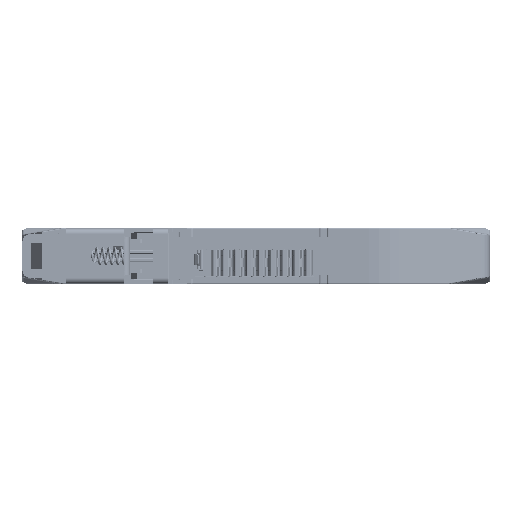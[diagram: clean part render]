
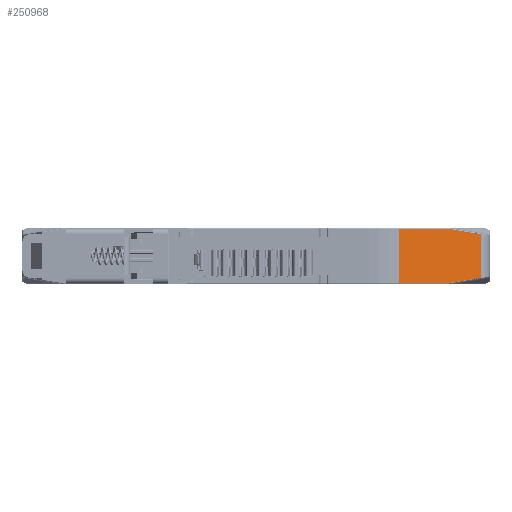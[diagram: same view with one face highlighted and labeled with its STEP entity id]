
A CAD part, front view. The second image highlights one B-rep face of the part: STEP entity #250968.
In plain terms, the highlighted planar face has unit normal (0.326, -0.946, 0).
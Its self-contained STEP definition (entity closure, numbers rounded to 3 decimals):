
#25450=DIRECTION('',(0.,0.,1.));
#25451=VECTOR('',#25450,9.291);
#25452=CARTESIAN_POINT('',(93.227,-2.698,
-1.445));
#25453=LINE('',#25452,#25451);
#25454=CARTESIAN_POINT('',(93.227,-2.698,
7.845));
#25582=CARTESIAN_POINT('',(93.227,-2.698,
-1.445));
#25584=DIRECTION('',(0.946,0.326,0.));
#25585=VECTOR('',#25584,10.873);
#25586=CARTESIAN_POINT('',(75.911,-8.66,9.));
#25587=LINE('',#25586,#25585);
#25588=CARTESIAN_POINT('',(86.191,-5.121,9.));
#25589=CARTESIAN_POINT('',(86.203,-5.116,
9.));
#25590=CARTESIAN_POINT('',(86.227,-5.108,
9.));
#25591=CARTESIAN_POINT('',(86.263,-5.096,
8.998));
#25592=CARTESIAN_POINT('',(86.298,-5.084,
8.996));
#25593=CARTESIAN_POINT('',(86.334,-5.071,
8.992));
#25594=CARTESIAN_POINT('',(86.369,-5.059,
8.988));
#25595=CARTESIAN_POINT('',(86.393,-5.051,
8.984));
#25596=CARTESIAN_POINT('',(86.405,-5.047,
8.982));
#25598=DIRECTION('',(0.934,0.322,-0.156));
#25599=VECTOR('',#25598,5.994);
#25600=CARTESIAN_POINT('',(86.405,-5.047,
8.982));
#25601=LINE('',#25600,#25599);
#25602=DIRECTION('',(0.,0.,1.));
#25603=VECTOR('',#25602,0.011);
#25604=CARTESIAN_POINT('',(92.003,-3.119,
8.038));
#25605=LINE('',#25604,#25603);
#25606=DIRECTION('',(-0.934,-0.322,0.156));
#25607=VECTOR('',#25606,0.506);
#25608=CARTESIAN_POINT('',(92.475,-2.957,
7.96));
#25609=LINE('',#25608,#25607);
#25610=DIRECTION('',(0.,0.,1.));
#25611=VECTOR('',#25610,0.011);
#25612=CARTESIAN_POINT('',(92.475,-2.957,
7.96));
#25613=LINE('',#25612,#25611);
#25614=DIRECTION('',(0.934,0.322,-0.156));
#25615=VECTOR('',#25614,0.804);
#25616=CARTESIAN_POINT('',(92.475,-2.957,
7.971));
#25617=LINE('',#25616,#25615);
#25618=DIRECTION('',(-0.934,-0.322,-0.156));
#25619=VECTOR('',#25618,0.804);
#25620=CARTESIAN_POINT('',(93.227,-2.698,
-1.445));
#25621=LINE('',#25620,#25619);
#25622=DIRECTION('',(0.,0.,-1.));
#25623=VECTOR('',#25622,0.011);
#25624=CARTESIAN_POINT('',(92.475,-2.957,
-1.56));
#25625=LINE('',#25624,#25623);
#25626=DIRECTION('',(-0.934,-0.322,-0.156));
#25627=VECTOR('',#25626,0.506);
#25628=CARTESIAN_POINT('',(92.475,-2.957,
-1.56));
#25629=LINE('',#25628,#25627);
#25630=DIRECTION('',(0.,0.,-1.));
#25631=VECTOR('',#25630,0.011);
#25632=CARTESIAN_POINT('',(92.003,-3.119,
-1.638));
#25633=LINE('',#25632,#25631);
#25634=DIRECTION('',(-0.934,-0.322,-0.156));
#25635=VECTOR('',#25634,5.994);
#25636=CARTESIAN_POINT('',(92.003,-3.119,
-1.649));
#25637=LINE('',#25636,#25635);
#25638=CARTESIAN_POINT('',(86.405,-5.047,
-2.582));
#25639=CARTESIAN_POINT('',(86.393,-5.051,
-2.584));
#25640=CARTESIAN_POINT('',(86.369,-5.059,
-2.588));
#25641=CARTESIAN_POINT('',(86.334,-5.071,
-2.592));
#25642=CARTESIAN_POINT('',(86.298,-5.084,
-2.596));
#25643=CARTESIAN_POINT('',(86.263,-5.096,
-2.598));
#25644=CARTESIAN_POINT('',(86.227,-5.108,
-2.6));
#25645=CARTESIAN_POINT('',(86.203,-5.116,
-2.6));
#25646=CARTESIAN_POINT('',(86.191,-5.121,-2.6));
#25648=DIRECTION('',(-0.946,-0.326,0.));
#25649=VECTOR('',#25648,10.873);
#25650=CARTESIAN_POINT('',(86.191,-5.121,-2.6));
#25651=LINE('',#25650,#25649);
#25661=DIRECTION('',(0.,0.,-1.));
#25662=VECTOR('',#25661,11.6);
#25663=CARTESIAN_POINT('',(75.911,-8.66,9.));
#25664=LINE('',#25663,#25662);
#205905=CARTESIAN_POINT('',(86.191,-5.121,-2.6));
#205906=CARTESIAN_POINT('',(75.911,-8.66,-2.6));
#205907=VERTEX_POINT('',#205905);
#205908=VERTEX_POINT('',#205906);
#205910=VERTEX_POINT('',#25638);
#205914=VERTEX_POINT('',#25582);
#207978=CARTESIAN_POINT('',(92.475,-2.957,
-1.56));
#207979=CARTESIAN_POINT('',(92.003,-3.119,
-1.638));
#207980=VERTEX_POINT('',#207978);
#207981=VERTEX_POINT('',#207979);
#207982=CARTESIAN_POINT('',(92.003,-3.119,
-1.649));
#207983=VERTEX_POINT('',#207982);
#207984=CARTESIAN_POINT('',(92.475,-2.957,
-1.571));
#207985=VERTEX_POINT('',#207984);
#215608=VERTEX_POINT('',#25454);
#215611=VERTEX_POINT('',#25588);
#215612=VERTEX_POINT('',#25596);
#215615=CARTESIAN_POINT('',(75.911,-8.66,9.));
#215616=VERTEX_POINT('',#215615);
#216771=CARTESIAN_POINT('',(92.475,-2.957,
7.96));
#216772=CARTESIAN_POINT('',(92.003,-3.119,
8.038));
#216773=VERTEX_POINT('',#216771);
#216774=VERTEX_POINT('',#216772);
#216775=CARTESIAN_POINT('',(92.003,-3.119,
8.049));
#216776=VERTEX_POINT('',#216775);
#216777=CARTESIAN_POINT('',(92.475,-2.957,
7.971));
#216778=VERTEX_POINT('',#216777);
#250930=CARTESIAN_POINT('',(75.911,-8.66,8.1));
#250931=DIRECTION('',(0.326,-0.946,0.));
#250932=DIRECTION('',(0.946,0.326,0.));
#250933=AXIS2_PLACEMENT_3D('',#250930,#250931,#250932);
#250934=PLANE('',#250933);
#250936=ORIENTED_EDGE('',*,*,#250935,.F.);
#250938=ORIENTED_EDGE('',*,*,#250937,.T.);
#250940=ORIENTED_EDGE('',*,*,#250939,.T.);
#250942=ORIENTED_EDGE('',*,*,#250941,.T.);
#250944=ORIENTED_EDGE('',*,*,#250943,.F.);
#250946=ORIENTED_EDGE('',*,*,#250945,.F.);
#250948=ORIENTED_EDGE('',*,*,#250947,.T.);
#250950=ORIENTED_EDGE('',*,*,#250949,.T.);
#250951=ORIENTED_EDGE('',*,*,#250916,.F.);
#250953=ORIENTED_EDGE('',*,*,#250952,.T.);
#250955=ORIENTED_EDGE('',*,*,#250954,.F.);
#250957=ORIENTED_EDGE('',*,*,#250956,.T.);
#250959=ORIENTED_EDGE('',*,*,#250958,.T.);
#250961=ORIENTED_EDGE('',*,*,#250960,.T.);
#250963=ORIENTED_EDGE('',*,*,#250962,.T.);
#250965=ORIENTED_EDGE('',*,*,#250964,.T.);
#250966=EDGE_LOOP('',(#250936,#250938,#250940,#250942,#250944,#250946,#250948,
#250950,#250951,#250953,#250955,#250957,#250959,#250961,#250963,#250965));
#250967=FACE_OUTER_BOUND('',#250966,.F.);
#250968=ADVANCED_FACE('',(#250967),#250934,.T.);
#25597=B_SPLINE_CURVE_WITH_KNOTS('',3,(#25588,#25589,#25590,#25591,#25592,
#25593,#25594,#25595,#25596),.UNSPECIFIED.,.F.,.F.,(4,1,1,1,1,1,4),(0.,
0.167,0.333,0.5,0.667,0.833,
1.),.UNSPECIFIED.);
#25647=B_SPLINE_CURVE_WITH_KNOTS('',3,(#25638,#25639,#25640,#25641,#25642,
#25643,#25644,#25645,#25646),.UNSPECIFIED.,.F.,.F.,(4,1,1,1,1,1,4),(0.,
0.167,0.333,0.5,0.667,0.833,
1.),.UNSPECIFIED.);
#250916=EDGE_CURVE('',#205914,#215608,#25453,.T.);
#250935=EDGE_CURVE('',#215616,#205908,#25664,.T.);
#250937=EDGE_CURVE('',#215616,#215611,#25587,.T.);
#250939=EDGE_CURVE('',#215611,#215612,#25597,.T.);
#250941=EDGE_CURVE('',#215612,#216776,#25601,.T.);
#250943=EDGE_CURVE('',#216774,#216776,#25605,.T.);
#250945=EDGE_CURVE('',#216773,#216774,#25609,.T.);
#250947=EDGE_CURVE('',#216773,#216778,#25613,.T.);
#250949=EDGE_CURVE('',#216778,#215608,#25617,.T.);
#250952=EDGE_CURVE('',#205914,#207985,#25621,.T.);
#250954=EDGE_CURVE('',#207980,#207985,#25625,.T.);
#250956=EDGE_CURVE('',#207980,#207981,#25629,.T.);
#250958=EDGE_CURVE('',#207981,#207983,#25633,.T.);
#250960=EDGE_CURVE('',#207983,#205910,#25637,.T.);
#250962=EDGE_CURVE('',#205910,#205907,#25647,.T.);
#250964=EDGE_CURVE('',#205907,#205908,#25651,.T.);
